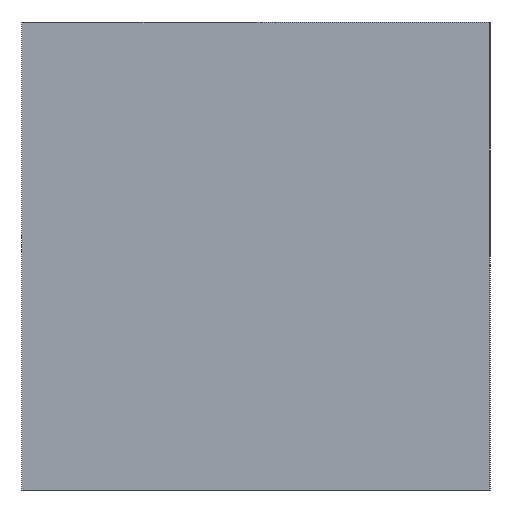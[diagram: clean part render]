
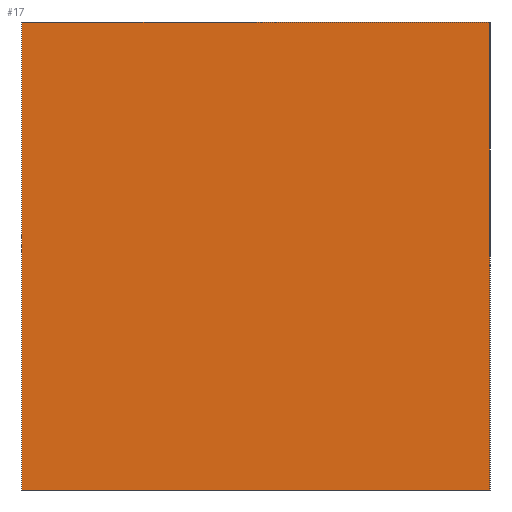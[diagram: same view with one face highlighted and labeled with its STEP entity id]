
A CAD part, left-side view. The second image highlights one B-rep face of the part: STEP entity #17.
In plain terms, the highlighted planar face has unit normal (-1, 0, 0).
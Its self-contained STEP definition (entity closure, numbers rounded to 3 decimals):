
#17 = ADVANCED_FACE('',(#18),#32,.F.);
#18 = FACE_BOUND('',#19,.F.);
#19 = EDGE_LOOP('',(#20,#55,#83,#111));
#20 = ORIENTED_EDGE('',*,*,#21,.F.);
#21 = EDGE_CURVE('',#22,#24,#26,.T.);
#22 = VERTEX_POINT('',#23);
#23 = CARTESIAN_POINT('',(-552.,-209.913,9.));
#24 = VERTEX_POINT('',#25);
#25 = CARTESIAN_POINT('',(-552.,-209.913,37.));
#26 = SURFACE_CURVE('',#27,(#31,#43),.PCURVE_S1.);
#27 = LINE('',#28,#29);
#28 = CARTESIAN_POINT('',(-552.,-209.913,9.));
#29 = VECTOR('',#30,1.);
#30 = DIRECTION('',(0.,0.,1.));
#31 = PCURVE('',#32,#37);
#32 = PLANE('',#33);
#33 = AXIS2_PLACEMENT_3D('',#34,#35,#36);
#34 = CARTESIAN_POINT('',(-552.,-209.913,9.));
#35 = DIRECTION('',(1.,0.,-0.));
#36 = DIRECTION('',(0.,0.,1.));
#37 = DEFINITIONAL_REPRESENTATION('',(#38),#42);
#38 = LINE('',#39,#40);
#39 = CARTESIAN_POINT('',(0.,0.));
#40 = VECTOR('',#41,1.);
#41 = DIRECTION('',(1.,0.));
#42 = ( GEOMETRIC_REPRESENTATION_CONTEXT(2) 
PARAMETRIC_REPRESENTATION_CONTEXT() REPRESENTATION_CONTEXT('2D SPACE',''
  ) );
#43 = PCURVE('',#44,#49);
#44 = PLANE('',#45);
#45 = AXIS2_PLACEMENT_3D('',#46,#47,#48);
#46 = CARTESIAN_POINT('',(-552.,-209.913,9.));
#47 = DIRECTION('',(-0.,1.,0.));
#48 = DIRECTION('',(0.,0.,1.));
#49 = DEFINITIONAL_REPRESENTATION('',(#50),#54);
#50 = LINE('',#51,#52);
#51 = CARTESIAN_POINT('',(0.,0.));
#52 = VECTOR('',#53,1.);
#53 = DIRECTION('',(1.,0.));
#54 = ( GEOMETRIC_REPRESENTATION_CONTEXT(2) 
PARAMETRIC_REPRESENTATION_CONTEXT() REPRESENTATION_CONTEXT('2D SPACE',''
  ) );
#55 = ORIENTED_EDGE('',*,*,#56,.T.);
#56 = EDGE_CURVE('',#22,#57,#59,.T.);
#57 = VERTEX_POINT('',#58);
#58 = CARTESIAN_POINT('',(-552.,-181.913,9.));
#59 = SURFACE_CURVE('',#60,(#64,#71),.PCURVE_S1.);
#60 = LINE('',#61,#62);
#61 = CARTESIAN_POINT('',(-552.,-209.913,9.));
#62 = VECTOR('',#63,1.);
#63 = DIRECTION('',(-0.,1.,0.));
#64 = PCURVE('',#32,#65);
#65 = DEFINITIONAL_REPRESENTATION('',(#66),#70);
#66 = LINE('',#67,#68);
#67 = CARTESIAN_POINT('',(0.,0.));
#68 = VECTOR('',#69,1.);
#69 = DIRECTION('',(0.,-1.));
#70 = ( GEOMETRIC_REPRESENTATION_CONTEXT(2) 
PARAMETRIC_REPRESENTATION_CONTEXT() REPRESENTATION_CONTEXT('2D SPACE',''
  ) );
#71 = PCURVE('',#72,#77);
#72 = PLANE('',#73);
#73 = AXIS2_PLACEMENT_3D('',#74,#75,#76);
#74 = CARTESIAN_POINT('',(-552.,-209.913,9.));
#75 = DIRECTION('',(0.,0.,1.));
#76 = DIRECTION('',(1.,0.,-0.));
#77 = DEFINITIONAL_REPRESENTATION('',(#78),#82);
#78 = LINE('',#79,#80);
#79 = CARTESIAN_POINT('',(0.,0.));
#80 = VECTOR('',#81,1.);
#81 = DIRECTION('',(0.,1.));
#82 = ( GEOMETRIC_REPRESENTATION_CONTEXT(2) 
PARAMETRIC_REPRESENTATION_CONTEXT() REPRESENTATION_CONTEXT('2D SPACE',''
  ) );
#83 = ORIENTED_EDGE('',*,*,#84,.T.);
#84 = EDGE_CURVE('',#57,#85,#87,.T.);
#85 = VERTEX_POINT('',#86);
#86 = CARTESIAN_POINT('',(-552.,-181.913,37.));
#87 = SURFACE_CURVE('',#88,(#92,#99),.PCURVE_S1.);
#88 = LINE('',#89,#90);
#89 = CARTESIAN_POINT('',(-552.,-181.913,9.));
#90 = VECTOR('',#91,1.);
#91 = DIRECTION('',(0.,0.,1.));
#92 = PCURVE('',#32,#93);
#93 = DEFINITIONAL_REPRESENTATION('',(#94),#98);
#94 = LINE('',#95,#96);
#95 = CARTESIAN_POINT('',(0.,-28.));
#96 = VECTOR('',#97,1.);
#97 = DIRECTION('',(1.,0.));
#98 = ( GEOMETRIC_REPRESENTATION_CONTEXT(2) 
PARAMETRIC_REPRESENTATION_CONTEXT() REPRESENTATION_CONTEXT('2D SPACE',''
  ) );
#99 = PCURVE('',#100,#105);
#100 = PLANE('',#101);
#101 = AXIS2_PLACEMENT_3D('',#102,#103,#104);
#102 = CARTESIAN_POINT('',(-552.,-181.913,9.));
#103 = DIRECTION('',(-0.,1.,0.));
#104 = DIRECTION('',(0.,0.,1.));
#105 = DEFINITIONAL_REPRESENTATION('',(#106),#110);
#106 = LINE('',#107,#108);
#107 = CARTESIAN_POINT('',(0.,0.));
#108 = VECTOR('',#109,1.);
#109 = DIRECTION('',(1.,0.));
#110 = ( GEOMETRIC_REPRESENTATION_CONTEXT(2) 
PARAMETRIC_REPRESENTATION_CONTEXT() REPRESENTATION_CONTEXT('2D SPACE',''
  ) );
#111 = ORIENTED_EDGE('',*,*,#112,.F.);
#112 = EDGE_CURVE('',#24,#85,#113,.T.);
#113 = SURFACE_CURVE('',#114,(#118,#125),.PCURVE_S1.);
#114 = LINE('',#115,#116);
#115 = CARTESIAN_POINT('',(-552.,-209.913,37.));
#116 = VECTOR('',#117,1.);
#117 = DIRECTION('',(-0.,1.,0.));
#118 = PCURVE('',#32,#119);
#119 = DEFINITIONAL_REPRESENTATION('',(#120),#124);
#120 = LINE('',#121,#122);
#121 = CARTESIAN_POINT('',(28.,0.));
#122 = VECTOR('',#123,1.);
#123 = DIRECTION('',(0.,-1.));
#124 = ( GEOMETRIC_REPRESENTATION_CONTEXT(2) 
PARAMETRIC_REPRESENTATION_CONTEXT() REPRESENTATION_CONTEXT('2D SPACE',''
  ) );
#125 = PCURVE('',#126,#131);
#126 = PLANE('',#127);
#127 = AXIS2_PLACEMENT_3D('',#128,#129,#130);
#128 = CARTESIAN_POINT('',(-552.,-209.913,37.));
#129 = DIRECTION('',(0.,0.,1.));
#130 = DIRECTION('',(1.,0.,-0.));
#131 = DEFINITIONAL_REPRESENTATION('',(#132),#136);
#132 = LINE('',#133,#134);
#133 = CARTESIAN_POINT('',(0.,0.));
#134 = VECTOR('',#135,1.);
#135 = DIRECTION('',(0.,1.));
#136 = ( GEOMETRIC_REPRESENTATION_CONTEXT(2) 
PARAMETRIC_REPRESENTATION_CONTEXT() REPRESENTATION_CONTEXT('2D SPACE',''
  ) );
